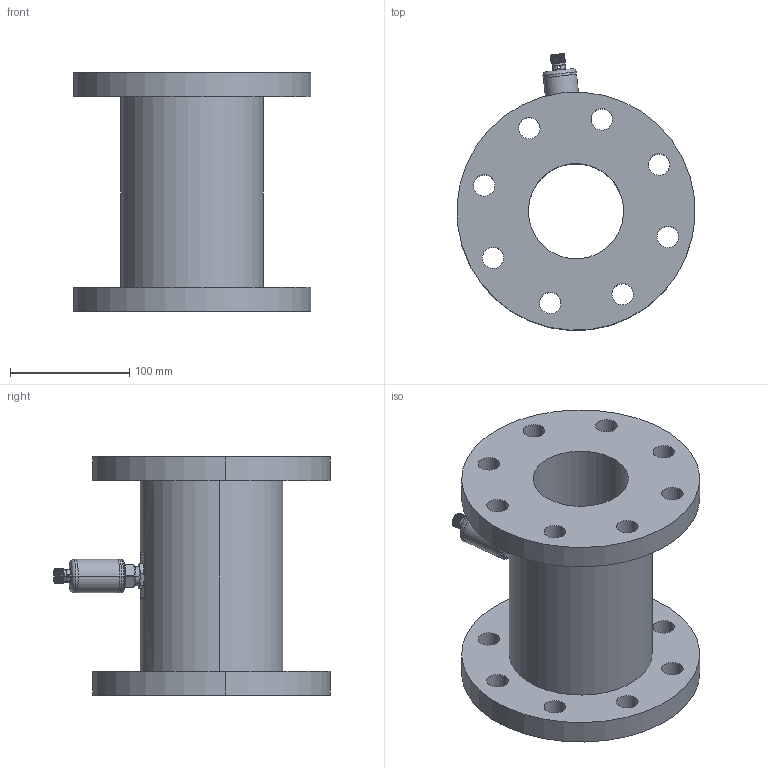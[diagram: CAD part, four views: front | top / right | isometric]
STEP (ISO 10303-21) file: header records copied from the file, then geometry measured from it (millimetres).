
FILE_DESCRIPTION (( 'STEP AP214' ), '1' );
FILE_NAME ('BFW1C80-J.STEP', '2026-01-20T06:16:33', ( '' ), ( '' ), 'SwSTEP 2.0', 'SolidWorks 2023', '' );
FILE_SCHEMA (( 'AUTOMOTIVE_DESIGN' ));
Length unit declared in the file: millimetre
Products named in the file (8): DN80法兰-华东; 垫片; 探头; 压力变送器; 壳体; M16螺母; BFW1C80-J; 连接管
Assembly tree (7 placements, depth 3):
  BFW1C80-J
    压力变送器
      壳体
      垫片
      连接管
      探头
    M16螺母
    DN80法兰-华东
Bounding box: 199.69 x 232.42 x 200 mm (x, y, z)
Volume: 1987727.2 mm3; surface area: 257507.7 mm2
Topology: 6 solids, 6 shells, 293 faces, 762 edges, 495 vertices
Faces by surface type: cylinder 179, plane 49, cone 48, bspline 9, torus 8
Entity records: 14749 total; most frequent: CARTESIAN_POINT 7669, ORIENTED_EDGE 1524, DIRECTION 1362, EDGE_CURVE 762, AXIS2_PLACEMENT_3D 550, VERTEX_POINT 495, EDGE_LOOP 359, ADVANCED_FACE 293
